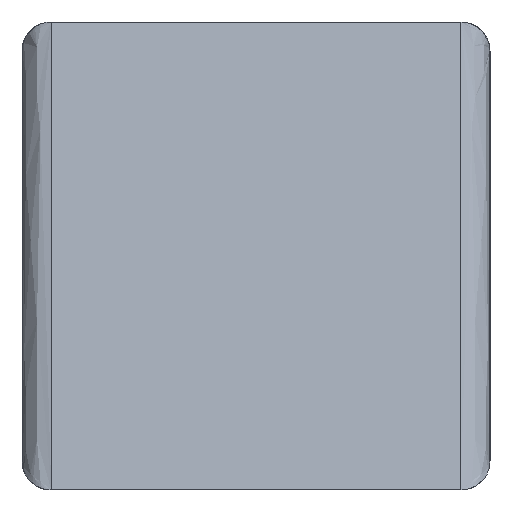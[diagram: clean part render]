
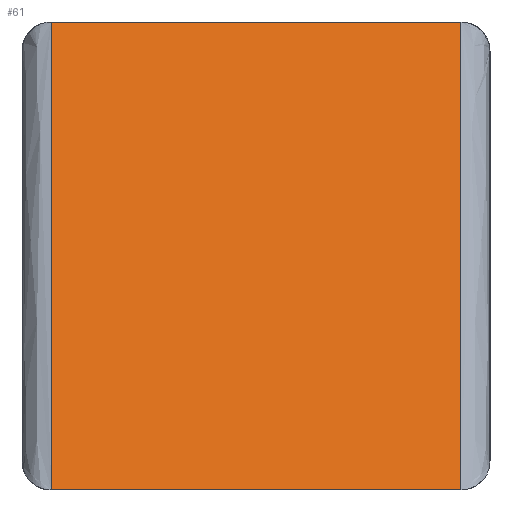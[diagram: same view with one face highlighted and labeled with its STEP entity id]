
A CAD part, left-side view. The second image highlights one B-rep face of the part: STEP entity #61.
In plain terms, the highlighted planar face has unit normal (-0.966, 0, 0.26).
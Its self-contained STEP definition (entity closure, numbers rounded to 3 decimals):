
#61=ADVANCED_FACE('',(#89),#386,.T.);
#89=FACE_OUTER_BOUND('',#117,.T.);
#117=EDGE_LOOP('',(#223,#224,#225,#226));
#223=ORIENTED_EDGE('',*,*,#270,.F.);
#224=ORIENTED_EDGE('',*,*,#273,.F.);
#225=ORIENTED_EDGE('',*,*,#283,.F.);
#226=ORIENTED_EDGE('',*,*,#262,.F.);
#262=EDGE_CURVE('',#363,#361,#318,.T.);
#270=EDGE_CURVE('',#369,#363,#326,.T.);
#273=EDGE_CURVE('',#371,#369,#329,.T.);
#283=EDGE_CURVE('',#361,#371,#339,.T.);
#318=B_SPLINE_CURVE_WITH_KNOTS('',1,(#1145,#1146),.UNSPECIFIED.,.F.,.F.,
(2,2),(0.,1.),.UNSPECIFIED.);
#326=B_SPLINE_CURVE_WITH_KNOTS('',1,(#1270,#1271),.UNSPECIFIED.,.F.,.F.,
(2,2),(0.,82.839),.UNSPECIFIED.);
#329=B_SPLINE_CURVE_WITH_KNOTS('',1,(#1323,#1324),.UNSPECIFIED.,.F.,.F.,
(2,2),(0.,1.),.UNSPECIFIED.);
#339=B_SPLINE_CURVE_WITH_KNOTS('',1,(#1443,#1444),.UNSPECIFIED.,.F.,.F.,
(2,2),(0.,82.839),.UNSPECIFIED.);
#361=VERTEX_POINT('',#1069);
#363=VERTEX_POINT('',#1071);
#369=VERTEX_POINT('',#1077);
#371=VERTEX_POINT('',#1079);
#386=PLANE('',#434);
#434=AXIS2_PLACEMENT_3D('',#1058,#449,$);
#449=DIRECTION('',(-0.966,0.,0.26));
#1058=CARTESIAN_POINT('',(-80.125,35.,80.));
#1069=CARTESIAN_POINT('',(-80.125,-35.,80.));
#1071=CARTESIAN_POINT('',(-80.125,35.,80.));
#1077=CARTESIAN_POINT('',(-101.625,35.,0.));
#1079=CARTESIAN_POINT('',(-101.625,-35.,0.));
#1145=CARTESIAN_POINT('',(-80.125,35.,80.));
#1146=CARTESIAN_POINT('',(-80.125,-35.,80.));
#1270=CARTESIAN_POINT('',(-101.625,35.,0.));
#1271=CARTESIAN_POINT('',(-80.125,35.,80.));
#1323=CARTESIAN_POINT('',(-101.625,-35.,0.));
#1324=CARTESIAN_POINT('',(-101.625,35.,0.));
#1443=CARTESIAN_POINT('',(-80.125,-35.,80.));
#1444=CARTESIAN_POINT('',(-101.625,-35.,0.));
